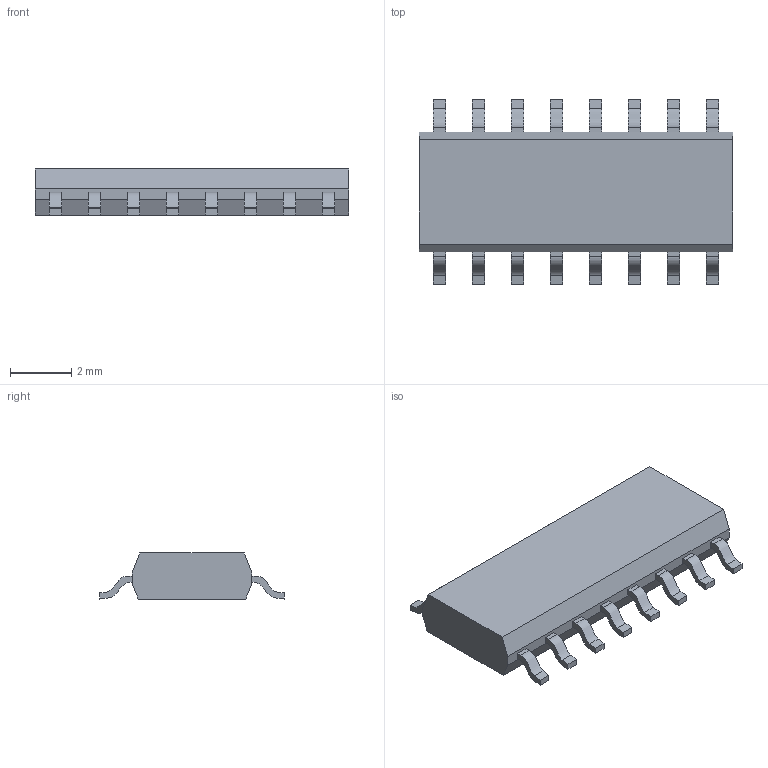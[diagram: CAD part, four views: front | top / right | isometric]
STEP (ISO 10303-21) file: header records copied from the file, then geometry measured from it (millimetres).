
FILE_DESCRIPTION (( 'STEP AP203' ), '1' );
FILE_NAME ('SOIC16.stp.STEP', '2026-08-19T20:49:49', ( '' ), ( '' ), 'SwSTEP 2.0', 'SolidWorks 2024', '' );
FILE_SCHEMA (( 'CONFIG_CONTROL_DESIGN' ));
Length unit declared in the file: millimetre
Products named in the file (1): SOIC16.stp
Bounding box: 10.2 x 6 x 1.5 mm (x, y, z)
Volume: 58.6 mm3; surface area: 138.2 mm2
Topology: 1 solids, 1 shells, 154 faces, 408 edges, 272 vertices
Faces by surface type: plane 122, bspline 32
Entity records: 4939 total; most frequent: CARTESIAN_POINT 1251, ORIENTED_EDGE 816, DIRECTION 590, EDGE_CURVE 408, LINE 344, VECTOR 344, VERTEX_POINT 272, EDGE_LOOP 170
